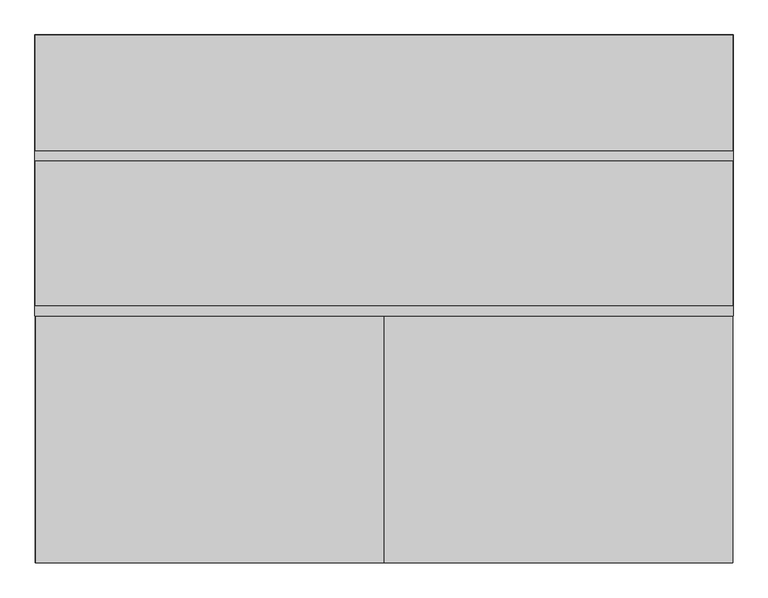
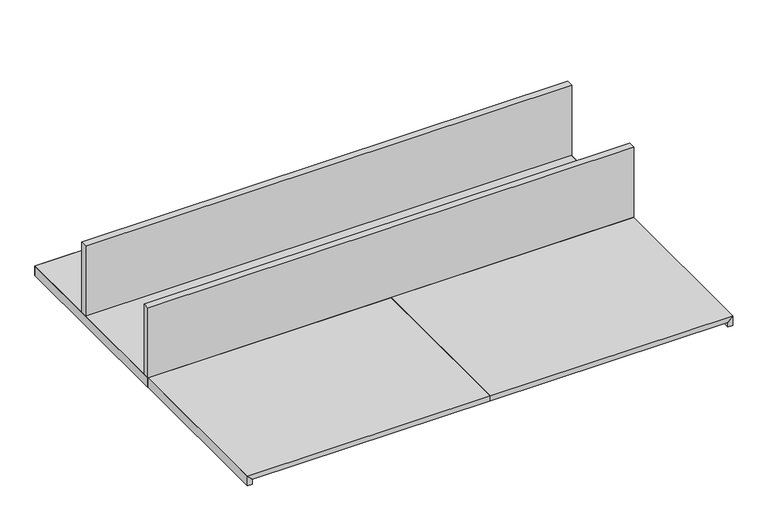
"""IFC4 building model written with IfcOpenShell, lengths in millimetres: proxy geometry, BASYS^OFFICE 5_WALL HUNGS-1.50x48.50x72-FIXED SHELVES W LIGHT."""

from ifc_helpers import new_model, si_unit, frame, origin, place, context, project, spatial, polyline, outline, extrude, faceted_brep, source, transform, mapped, element, save


def generic_models_622447a6(model_context):
    return source(origin(), model_context, "Body", "SolidModel", [
        faceted_brep([(1828.8, -736.6, 19.05), (1809.75, -736.6, 0.0), (1809.75, -736.6, -19.05), (1828.8, -736.6, -19.05), (1828.8, 0.0, -19.05), (1828.8, 0.0, 19.05), (1809.75, -19.05, 0.0), (1809.75, -19.05, -19.05)], [[[0, 1, 2, 3]], [[4, 5, 0, 3]], [[5, 6, 1, 0]], [[6, 7, 2, 1]], [[7, 4, 3, 2]], [[6, 5, 4, 7]]]),
        faceted_brep([(19.05, -736.6, 0.0), (0.0, -736.6, 19.05), (0.0, -736.6, -19.05), (19.05, -736.6, -19.05), (19.05, -19.05, -19.05), (19.05, -19.05, 0.0), (0.0, 0.0, 19.05), (0.0, 0.0, -19.05)], [[[0, 1, 2, 3]], [[4, 5, 0, 3]], [[5, 6, 1, 0]], [[6, 7, 2, 1]], [[7, 4, 3, 2]], [[6, 5, 4, 7]]]),
        extrude(outline(polyline([(1828.8, -711.2), (1828.8, -736.6), (0.0, -736.6), (0.0, -711.2), (1828.8, -711.2)])), frame((0.0, 0.0, 19.05), z_axis=(0.0, 0.0, 1.0), x_axis=(1.0, 0.0, 0.0)), (0.0, 0.0, 1.0), 279.4),
        extrude(outline(polyline([(1828.8, -330.2), (0.0, -330.2), (0.0, -304.8), (1828.8, -304.8), (1828.8, -330.2)])), frame((0.0, 0.0, 19.05), z_axis=(0.0, 0.0, 1.0), x_axis=(1.0, 0.0, 0.0)), (0.0, 0.0, 1.0), 279.4),
        extrude(outline(polyline([(0.0, 1808.95625), (19.05, 1828.00625), (19.05, 914.796875), (0.0, 914.796875), (0.0, 1808.95625)])), frame((0.0, -1383.50625, 0.0), z_axis=(0.0, 1.0, 0.0), x_axis=(0.0, 0.0, 1.0)), (0.0, 0.0, 1.0), 646.1125),
        extrude(outline(polyline([(19.05, 0.79375), (-19.05, 0.79375), (-19.05, 19.84375), (0.0, 19.84375), (19.05, 0.79375)])), frame((0.0, -1383.50625, 0.0), z_axis=(0.0, 1.0, 0.0), x_axis=(0.0, 0.0, 1.0)), (0.0, 0.0, 1.0), 646.1125),
        faceted_brep([(0.0, 0.0, -19.05), (19.05, -19.05, -19.05), (19.05, -19.05, 0.0), (0.0, 0.0, 19.05), (1809.75, -19.05, -19.05), (1809.75, -19.05, 0.0), (1828.8, 0.0, -19.05), (1828.8, 0.0, 19.05)], [[[0, 1, 2, 3]], [[2, 1, 4, 5]], [[1, 0, 6, 4]], [[4, 6, 7, 5]], [[0, 3, 7, 6]], [[3, 2, 5, 7]]]),
        extrude(outline(polyline([(-19.05, 1808.95625), (-19.05, 1828.00625), (19.05, 1828.00625), (0.0, 1808.95625), (-19.05, 1808.95625)])), frame((0.0, -1383.50625, 0.0), z_axis=(0.0, 1.0, 0.0), x_axis=(0.0, 0.0, 1.0)), (0.0, 0.0, 1.0), 646.1125),
        extrude(outline(polyline([(19.05, 0.79375), (0.0, 19.84375), (0.0, 914.003125), (19.05, 914.003125), (19.05, 0.79375)])), frame((0.0, -1383.50625, 0.0), z_axis=(0.0, 1.0, 0.0), x_axis=(0.0, 0.0, 1.0)), (0.0, 0.0, 1.0), 646.1125),
        faceted_brep([(1809.75, -736.6, 0.0), (1828.8, -736.6, 19.05), (0.0, -736.6, 19.05), (19.05, -736.6, 0.0), (0.0, 0.0, 19.05), (19.05, -19.05, 0.0), (1809.75, -19.05, 0.0), (1828.8, 0.0, 19.05)], [[[0, 1, 2, 3]], [[2, 4, 5, 3]], [[3, 5, 6, 0]], [[5, 4, 7, 6]], [[6, 7, 1, 0]], [[1, 7, 4, 2]]]),
    ])


if __name__ == "__main__":
    model = new_model("IFC4")
    model_context = context("Model", 3, world=origin())
    ifc_project = project(units=[si_unit("LENGTHUNIT", "METRE", prefix="MILLI")], contexts=[model_context])
    site = spatial("IfcSite", under=ifc_project)
    building = spatial("IfcBuilding", under=site)
    placement = place(None, origin())
    generic_models_shape = generic_models_622447a6(model_context)
    element("IfcBuildingElementProxy", 1, Name="BASYS^OFFICE 5_WALL HUNGS-1.50x48.50x72-FIXED SHELVES W LIGHT", ObjectType="BASYS^OFFICE 5_WALL HUNGS-1.50x48.50x72-FIXED SHELVES W LIGHT", at=placement, inside=building, context=model_context, shape_type="MappedRepresentation", body=[
        mapped(generic_models_shape, transform((0.0, 0.0, 0.0), x_axis=(1.0, 0.0, 0.0), y_axis=(0.0, 1.0, 0.0), z_axis=(0.0, 0.0, 1.0))),
    ])
    save(model, "model.ifc")
